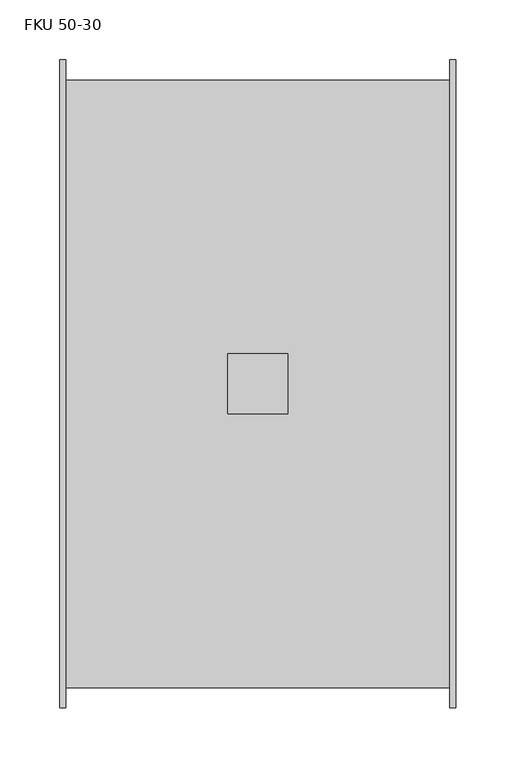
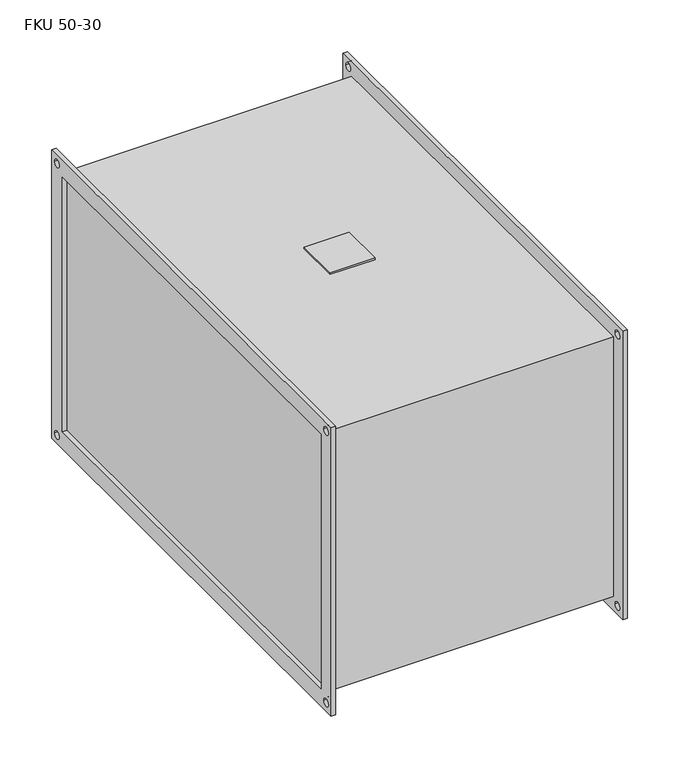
"""IFC4 building model written with IfcOpenShell, lengths in millimetres: damper geometry, KORF_Фильтр_Карманный_Укороченный_FKU : FKU 50-30."""

from ifc_helpers import new_model, si_unit, point, frame, frame_2d, origin, place, context, project, spatial, polyline, circle_curve, trimmed, segment, composite_curve, outline, extrude, source, transform, mapped, element, save


def fku_50_30_2222d7ca(model_context):
    return source(origin(), model_context, "Body", "SweptSolid", [
        extrude(outline(polyline([(140.0, -25.0), (140.0, 25.0), (190.0, 25.0), (190.0, -25.0), (140.0, -25.0)])), frame((0.0, 0.0, 153.0), z_axis=(0.0, 0.0, 1.0), x_axis=(1.0, 0.0, 0.0)), (0.0, 0.0, 1.0), 2.0),
        extrude(outline(polyline([(-270.0, 170.0), (270.0, 170.0), (270.0, -170.0), (-270.0, -170.0), (-270.0, 170.0)]), holes=[polyline([(-250.0, 150.0), (-250.0, -150.0), (250.0, -150.0), (250.0, 150.0), (-250.0, 150.0)]), composite_curve([segment(trimmed(circle_curve(frame_2d((260.0, 160.0)), 4.5), [point((255.5, 160.0))], [point((264.5, 160.0))], True, "CARTESIAN"), True, "CONTINUOUS"), segment(trimmed(circle_curve(frame_2d((260.0, 160.0)), 4.5), [point((264.5, 160.0))], [point((255.5, 160.0))], True, "CARTESIAN"), True, "CONTINUOUS")], self_intersect=False), composite_curve([segment(trimmed(circle_curve(frame_2d((-260.0, 160.0)), 4.5), [point((-264.5, 160.0))], [point((-255.5, 160.0))], True, "CARTESIAN"), True, "CONTINUOUS"), segment(trimmed(circle_curve(frame_2d((-260.0, 160.0)), 4.5), [point((-255.5, 160.0))], [point((-264.5, 160.0))], True, "CARTESIAN"), True, "CONTINUOUS")], self_intersect=False), composite_curve([segment(trimmed(circle_curve(frame_2d((-260.0, -160.0)), 4.5), [point((-264.5, -160.0))], [point((-255.5, -160.0))], True, "CARTESIAN"), True, "CONTINUOUS"), segment(trimmed(circle_curve(frame_2d((-260.0, -160.0)), 4.5), [point((-255.5, -160.0))], [point((-264.5, -160.0))], True, "CARTESIAN"), True, "CONTINUOUS")], self_intersect=False), composite_curve([segment(trimmed(circle_curve(frame_2d((260.0, -160.0)), 4.5), [point((255.5, -160.0))], [point((264.5, -160.0))], True, "CARTESIAN"), True, "CONTINUOUS"), segment(trimmed(circle_curve(frame_2d((260.0, -160.0)), 4.5), [point((264.5, -160.0))], [point((255.5, -160.0))], True, "CARTESIAN"), True, "CONTINUOUS")], self_intersect=False)]), frame((325.0, 0.0, 0.0), z_axis=(1.0, 0.0, 0.0), x_axis=(0.0, 1.0, 0.0)), (0.0, 0.0, 1.0), 5.0),
        extrude(outline(polyline([(-270.0, 170.0), (270.0, 170.0), (270.0, -170.0), (-270.0, -170.0), (-270.0, 170.0)]), holes=[polyline([(-250.0, 150.0), (-250.0, -150.0), (250.0, -150.0), (250.0, 150.0), (-250.0, 150.0)]), composite_curve([segment(trimmed(circle_curve(frame_2d((260.0, 160.0)), 4.5), [point((255.5, 160.0))], [point((264.5, 160.0))], True, "CARTESIAN"), True, "CONTINUOUS"), segment(trimmed(circle_curve(frame_2d((260.0, 160.0)), 4.5), [point((264.5, 160.0))], [point((255.5, 160.0))], True, "CARTESIAN"), True, "CONTINUOUS")], self_intersect=False), composite_curve([segment(trimmed(circle_curve(frame_2d((-260.0, 160.0)), 4.5), [point((-264.5, 160.0))], [point((-255.5, 160.0))], True, "CARTESIAN"), True, "CONTINUOUS"), segment(trimmed(circle_curve(frame_2d((-260.0, 160.0)), 4.5), [point((-255.5, 160.0))], [point((-264.5, 160.0))], True, "CARTESIAN"), True, "CONTINUOUS")], self_intersect=False), composite_curve([segment(trimmed(circle_curve(frame_2d((-260.0, -160.0)), 4.5), [point((-264.5, -160.0))], [point((-255.5, -160.0))], True, "CARTESIAN"), True, "CONTINUOUS"), segment(trimmed(circle_curve(frame_2d((-260.0, -160.0)), 4.5), [point((-255.5, -160.0))], [point((-264.5, -160.0))], True, "CARTESIAN"), True, "CONTINUOUS")], self_intersect=False), composite_curve([segment(trimmed(circle_curve(frame_2d((260.0, -160.0)), 4.5), [point((255.5, -160.0))], [point((264.5, -160.0))], True, "CARTESIAN"), True, "CONTINUOUS"), segment(trimmed(circle_curve(frame_2d((260.0, -160.0)), 4.5), [point((264.5, -160.0))], [point((255.5, -160.0))], True, "CARTESIAN"), True, "CONTINUOUS")], self_intersect=False)]), frame((0.0, 0.0, 0.0), z_axis=(1.0, 0.0, 0.0), x_axis=(0.0, 1.0, 0.0)), (0.0, 0.0, 1.0), 5.0),
        extrude(outline(polyline([(325.0, 253.0), (325.0, -253.0), (5.0, -253.0), (5.0, 253.0), (325.0, 253.0)])), frame((0.0, 0.0, -153.0), z_axis=(0.0, 0.0, 1.0), x_axis=(1.0, 0.0, 0.0)), (0.0, 0.0, 1.0), 306.0),
    ])


if __name__ == "__main__":
    model = new_model("IFC4")
    model_context = context("Model", 3, world=origin())
    ifc_project = project(units=[si_unit("LENGTHUNIT", "METRE", prefix="MILLI")], contexts=[model_context])
    site = spatial("IfcSite", under=ifc_project)
    building = spatial("IfcBuilding", under=site)
    placement = place(None, origin())
    fku_50_30_shape = fku_50_30_2222d7ca(model_context)
    element("IfcDamper", 1, ObjectType="KORF_Фильтр_Карманный_Укороченный_FKU : FKU 50-30", at=placement, inside=building, context=model_context, shape_type="MappedRepresentation", body=[
        mapped(fku_50_30_shape, transform((0.0, 0.0, 0.0), x_axis=(1.0, 0.0, 0.0), y_axis=(0.0, 1.0, 0.0), z_axis=(0.0, 0.0, 1.0))),
    ])
    save(model, "model.ifc")
